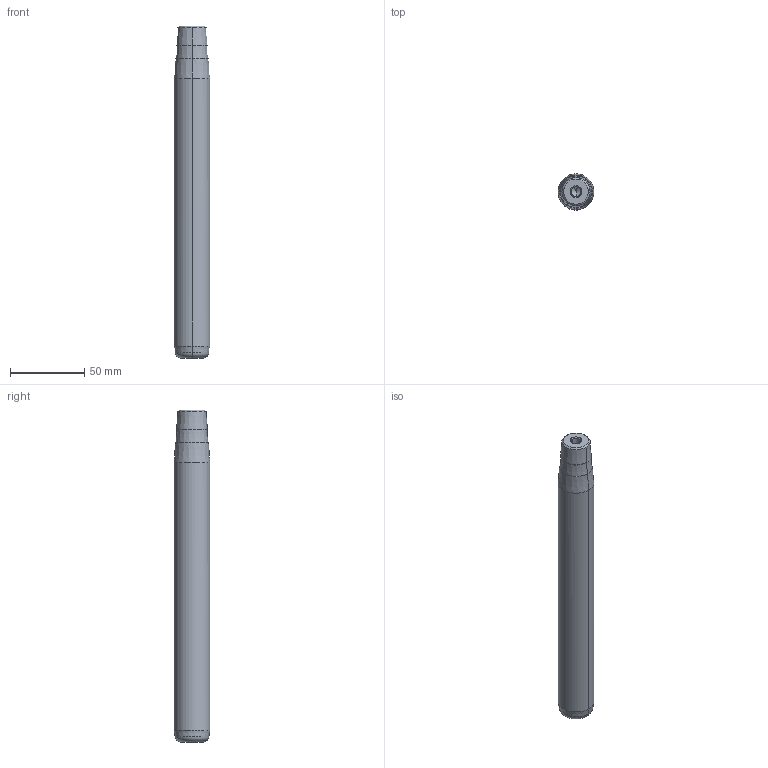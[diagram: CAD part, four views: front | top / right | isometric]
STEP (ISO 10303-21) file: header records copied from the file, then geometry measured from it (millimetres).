
FILE_DESCRIPTION(('CATIA V5 STEP Exchange'),'2;1');
FILE_NAME('C:\Users\Utente\Desktop\IO LAVORO\3D X SITO CF\X SITO\722\722-24x200x223.stp','2021-01-09T08:32:24+00:00',('none'),('none'),'CATIA Version 5 Release 20 GA (IN-10)','CATIA V5 STEP AP203','none');
FILE_SCHEMA(('CONFIG_CONTROL_DESIGN'));
Length unit declared in the file: millimetre
Products named in the file (1): 722-24x200x223
Bounding box: 24 x 24 x 223 mm (x, y, z)
Volume: 95118.7 mm3; surface area: 18138.2 mm2
Topology: 1 solids, 1 shells, 32 faces, 98 edges, 66 vertices
Faces by surface type: cone 22, cylinder 6, plane 2, torus 2
Entity records: 1166 total; most frequent: CARTESIAN_POINT 279, ORIENTED_EDGE 188, DIRECTION 148, EDGE_CURVE 94, AXIS2_PLACEMENT_3D 89, VERTEX_POINT 66, CIRCLE 56, EDGE_LOOP 34
